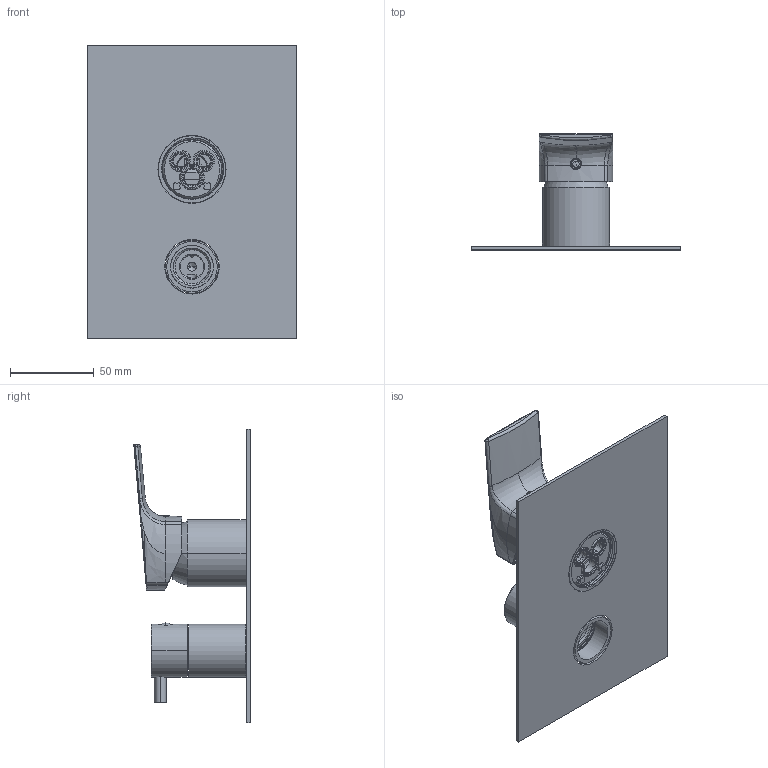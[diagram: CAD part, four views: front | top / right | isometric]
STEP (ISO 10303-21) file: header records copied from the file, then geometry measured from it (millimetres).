
FILE_DESCRIPTION((''),'2;1');
FILE_NAME('3D_SW0002','2024-10-08T09:36:49',('volponeff'),(''),'CREO PARAMETRIC BY PTC INC, 2022014','CREO PARAMETRIC BY PTC INC, 2022014','');
FILE_SCHEMA(('CONFIG_CONTROL_DESIGN'));
Products named in the file (1): 3D_SW0002
Bounding box: 125 x 69.24 x 175 mm (x, y, z)
Volume: 107781.2 mm3; surface area: 105340.6 mm2
Topology: 5 solids, 6 shells, 1073 faces, 3066 edges, 1993 vertices
Faces by surface type: cylinder 408, plane 314, bspline 132, torus 104, cone 97, sphere 18
Entity records: 84680 total; most frequent: CARTESIAN_POINT 57671, ORIENTED_EDGE 6080, DIRECTION 5195, EDGE_CURVE 3040, VERTEX_POINT 1993, AXIS2_PLACEMENT_3D 1990, VECTOR 1215, LINE 1215
